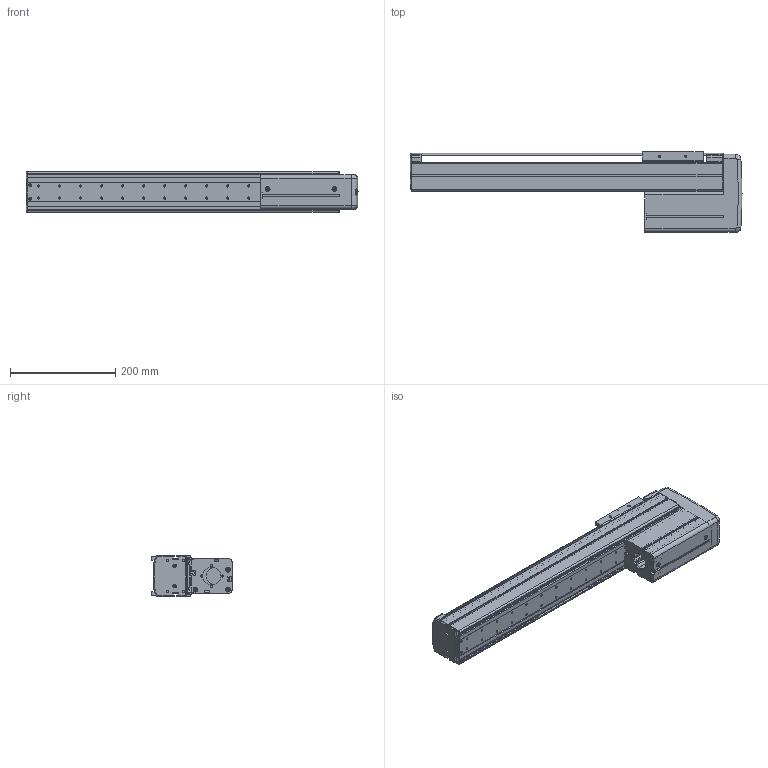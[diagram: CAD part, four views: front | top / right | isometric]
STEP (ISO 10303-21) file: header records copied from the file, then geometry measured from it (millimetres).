
FILE_DESCRIPTION((''),'2;1');
FILE_NAME('BE10E-UU-M_N-40_IGS_PRT','2017-06-17T',(' '),(''),'PRO/ENGINEER BY PARAMETRIC TECHNOLOGY CORPORATION, 2015030','PRO/ENGINEER BY PARAMETRIC TECHNOLOGY CORPORATION, 2015030','');
FILE_SCHEMA(('CONFIG_CONTROL_DESIGN'));
Length unit declared in the file: millimetre
Products named in the file (1): BE10E-UU-M_N-40_IGS_PRT
Bounding box: 632 x 153 x 78 mm (x, y, z)
Volume: 1040751.6 mm3; surface area: 712372 mm2
Topology: 2 solids, 103 shells, 1756 faces, 4740 edges, 3065 vertices
Faces by surface type: cylinder 825, plane 703, cone 81, torus 71, sphere 44, bspline 32
Entity records: 57339 total; most frequent: CARTESIAN_POINT 12101, DIRECTION 9808, ORIENTED_EDGE 9022, EDGE_CURVE 4706, AXIS2_PLACEMENT_3D 3639, VERTEX_POINT 3065, VECTOR 2530, LINE 2530
